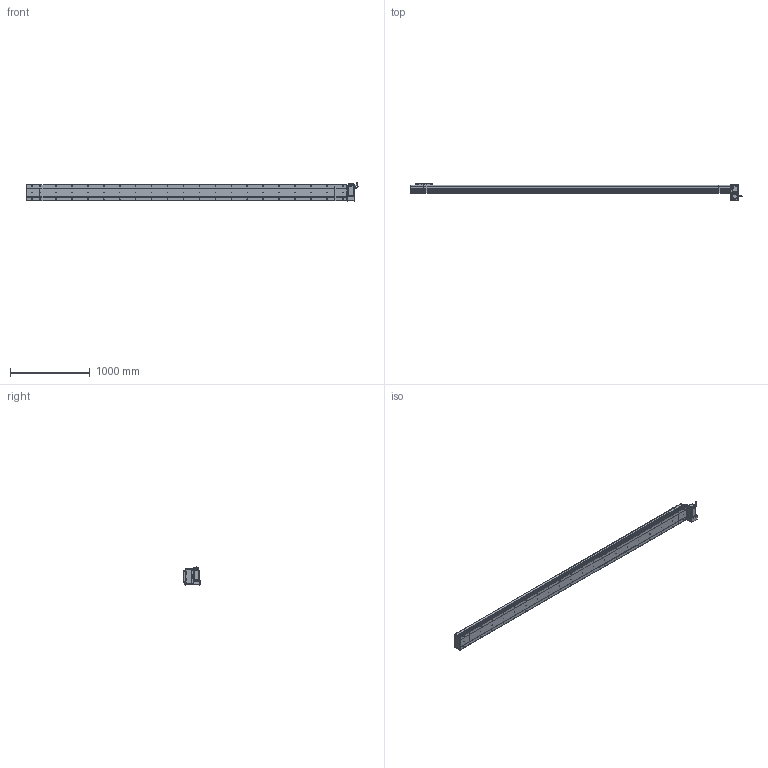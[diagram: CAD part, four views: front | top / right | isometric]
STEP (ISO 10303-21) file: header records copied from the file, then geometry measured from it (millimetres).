
FILE_DESCRIPTION (( 'STEP AP214' ), '1' );
FILE_NAME ('D20 CBH RU S3700.STEP', '2010-06-30T11:05:28', ( 'Conseil Régional Haute-Normandie' ), ( 'Conseil Régional Haute-Normandie' ), 'SwSTEP 2.0', 'SolidWorks 2010', '' );
FILE_SCHEMA (( 'AUTOMOTIVE_DESIGN' ));
Length unit declared in the file: millimetre
Products named in the file (31): Corp Tail D20+100_Default; Tail D20+100_Default; Corp S3700_Default; Corp D20 S3700_Default; Couvercle S3700_Default; Glissiere_Default; Chariot D20_Default; Support Chariot D20_Default; vis M5 L30_Default; Conecteur_Default; Conecteur2_Default; vis M5 L47_Default; ecrou_Default; codeur 90BLDC125-640; corps 90BLDC125A-640; avant 90BLDC125A-640; Moteur motionking 90BLDC125A-640; Plaque de Bout Tail D20_Default; Plaque De Serrage D20_Default; vis M5 L15_Default; Couvercle_Default; Plaque de Bout Head D20 RU_Default; Head RU_Default; D20 CBH RU S3700; Couvercle RU_Default; Corp Tail D20 RU_Default; Support moteur RU_Default; Rondelle Cache D20 RU_Default; Cache Support Moteur RU_Default; Plaque De Serrage D20 RU_Default
Assembly tree (66 placements, depth 4):
  D20 CBH RU S3700
    Head RU_Default
      vis M5 L15_Default  x12
      vis M5 L30_Default  x4
      ecrou_Default  x4
      Support moteur RU_Default
      Plaque de Bout Head D20 RU_Default
      Cache Support Moteur RU_Default
      vis M5 L47_Default  x4
      Rondelle Cache D20 RU_Default  x3
      Couvercle RU_Default
      Plaque De Serrage D20 RU_Default
      Corp Tail D20 RU_Default
      Moteur motionking 90BLDC125A-640
        Conecteur2_Default
        Conecteur_Default
        avant 90BLDC125A-640
        codeur 90BLDC125-640
        corps 90BLDC125A-640
    Corp D20 S3700_Default
      Couvercle S3700_Default
      Corp S3700_Default
    Tail D20+100_Default
      vis M5 L15_Default  x6
      Corp Tail D20+100_Default
      Plaque De Serrage D20_Default
      Couvercle_Default
      Plaque de Bout Tail D20_Default
    Chariot D20_Default
      vis M5 L15_Default  x8
      Glissiere_Default
      Support Chariot D20_Default
      Chariot D20_Default
Bounding box: 4164.45 x 209 x 229.7 mm (x, y, z)
Volume: 27662804.2 mm3; surface area: 5282602.7 mm2
Topology: 103 solids, 103 shells, 3853 faces, 9578 edges, 6226 vertices
Faces by surface type: plane 2126, bspline 806, cylinder 758, torus 91, cone 68, sphere 4
Entity records: 161734 total; most frequent: CARTESIAN_POINT 82695, ORIENTED_EDGE 15624, DIRECTION 12066, EDGE_CURVE 7812, VERTEX_POINT 5170, LINE 5008, VECTOR 5008, AXIS2_PLACEMENT_3D 3529
